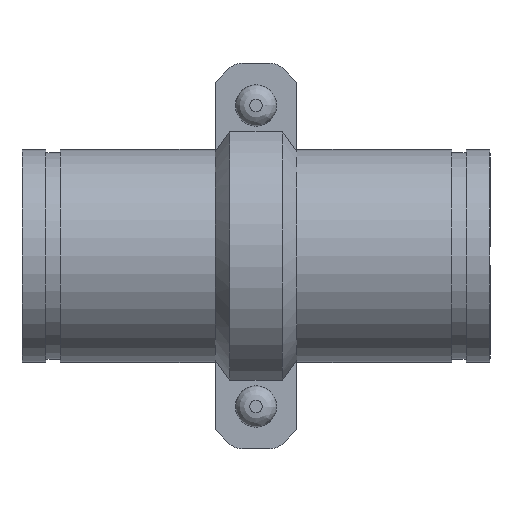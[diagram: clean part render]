
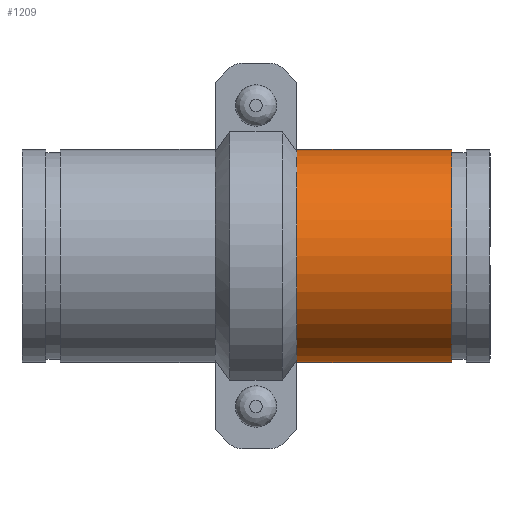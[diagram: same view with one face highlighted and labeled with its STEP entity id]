
A CAD part, front view. The second image highlights one B-rep face of the part: STEP entity #1209.
In plain terms, the highlighted cylindrical face has radius 70.65 mm (diameter 141.3 mm), a full revolution.
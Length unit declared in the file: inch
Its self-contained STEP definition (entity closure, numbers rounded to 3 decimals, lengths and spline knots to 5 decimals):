
#48=LINE('',#1920,#135);
#135=VECTOR('',#1561,2.7815);
#222=CYLINDRICAL_SURFACE('',#1386,2.7815);
#267=FACE_OUTER_BOUND('',#340,.T.);
#340=EDGE_LOOP('',(#797,#798,#799,#800,#801,#802));
#432=CIRCLE('',#1384,2.7815);
#433=CIRCLE('',#1385,2.7815);
#434=CIRCLE('',#1387,2.7815);
#435=CIRCLE('',#1388,2.7815);
#500=VERTEX_POINT('',#1911);
#501=VERTEX_POINT('',#1912);
#502=VERTEX_POINT('',#1916);
#503=VERTEX_POINT('',#1917);
#617=EDGE_CURVE('',#500,#501,#432,.T.);
#618=EDGE_CURVE('',#501,#500,#433,.T.);
#619=EDGE_CURVE('',#502,#503,#434,.T.);
#620=EDGE_CURVE('',#503,#502,#435,.T.);
#621=EDGE_CURVE('',#503,#501,#48,.T.);
#797=ORIENTED_EDGE('',*,*,#619,.F.);
#798=ORIENTED_EDGE('',*,*,#620,.F.);
#799=ORIENTED_EDGE('',*,*,#621,.T.);
#800=ORIENTED_EDGE('',*,*,#618,.T.);
#801=ORIENTED_EDGE('',*,*,#617,.T.);
#802=ORIENTED_EDGE('',*,*,#621,.F.);
#1209=ADVANCED_FACE('',(#267),#222,.T.);
#1384=AXIS2_PLACEMENT_3D('',#1913,#1551,#1552);
#1385=AXIS2_PLACEMENT_3D('',#1914,#1553,#1554);
#1386=AXIS2_PLACEMENT_3D('',#1915,#1555,#1556);
#1387=AXIS2_PLACEMENT_3D('',#1918,#1557,#1558);
#1388=AXIS2_PLACEMENT_3D('',#1919,#1559,#1560);
#1551=DIRECTION('center_axis',(-1.,0.,0.));
#1552=DIRECTION('ref_axis',(0.,0.,1.));
#1553=DIRECTION('center_axis',(-1.,0.,0.));
#1554=DIRECTION('ref_axis',(0.,0.,1.));
#1555=DIRECTION('center_axis',(-1.,0.,0.));
#1556=DIRECTION('ref_axis',(0.,1.,0.));
#1557=DIRECTION('center_axis',(-1.,0.,0.));
#1558=DIRECTION('ref_axis',(0.,0.,1.));
#1559=DIRECTION('center_axis',(-1.,0.,0.));
#1560=DIRECTION('ref_axis',(0.,0.,1.));
#1561=DIRECTION('',(1.,0.,0.));
#1911=CARTESIAN_POINT('',(2.0225,2.7815,0.));
#1912=CARTESIAN_POINT('',(2.0225,-2.7815,0.));
#1913=CARTESIAN_POINT('Origin',(2.0225,0.,0.));
#1914=CARTESIAN_POINT('Origin',(2.0225,0.,0.));
#1915=CARTESIAN_POINT('Origin',(0.,0.,
0.));
#1916=CARTESIAN_POINT('',(-2.0225,2.7815,0.));
#1917=CARTESIAN_POINT('',(-2.0225,-2.7815,0.));
#1918=CARTESIAN_POINT('Origin',(-2.0225,0.,0.));
#1919=CARTESIAN_POINT('Origin',(-2.0225,0.,0.));
#1920=CARTESIAN_POINT('',(0.,-2.7815,0.));
